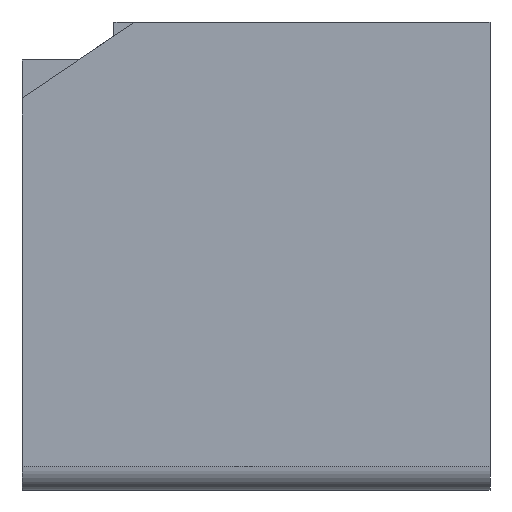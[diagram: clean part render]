
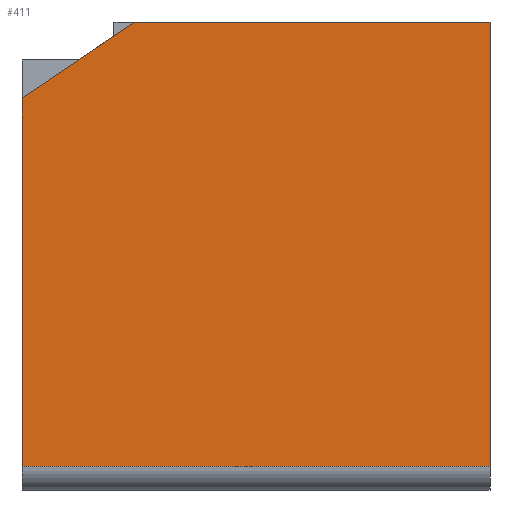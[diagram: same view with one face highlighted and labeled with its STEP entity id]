
A CAD part, front view. The second image highlights one B-rep face of the part: STEP entity #411.
In plain terms, the highlighted planar face has unit normal (0, -1, 0).
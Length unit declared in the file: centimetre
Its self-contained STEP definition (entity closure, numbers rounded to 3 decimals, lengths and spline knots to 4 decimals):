
#36 = LINE ( 'NONE', #930, #144 ) ;
#66 = VERTEX_POINT ( 'NONE', #776 ) ;
#69 = VECTOR ( 'NONE', #676, 100. ) ;
#98 = EDGE_CURVE ( 'NONE', #172, #741, #368, .T. ) ;
#129 = DIRECTION ( 'NONE',  ( 0., 0., 1. ) ) ;
#140 = CARTESIAN_POINT ( 'NONE',  ( 1000., 0., 50.4014 ) ) ;
#144 = VECTOR ( 'NONE', #203, 100. ) ;
#147 = CARTESIAN_POINT ( 'NONE',  ( 0., 0., 1000. ) ) ;
#164 = EDGE_CURVE ( 'NONE', #66, #741, #36, .T. ) ;
#172 = VERTEX_POINT ( 'NONE', #769 ) ;
#203 = DIRECTION ( 'NONE',  ( 1., 0., 0. ) ) ;
#287 = CARTESIAN_POINT ( 'NONE',  ( 0., 0., 1000. ) ) ;
#336 = CARTESIAN_POINT ( 'NONE',  ( 0., 0., 837.6477 ) ) ;
#368 = LINE ( 'NONE', #687, #929 ) ;
#374 = AXIS2_PLACEMENT_3D ( 'NONE', #287, #529, #129 ) ;
#375 = PLANE ( 'NONE',  #374 ) ;
#408 = ORIENTED_EDGE ( 'NONE', *, *, #98, .F. ) ;
#409 = CARTESIAN_POINT ( 'NONE',  ( 0., 0., 837.6477 ) ) ;
#411 = ADVANCED_FACE ( 'NONE', ( #866 ), #375, .F. ) ;
#420 = CARTESIAN_POINT ( 'NONE',  ( 240.8761, 0., 1000. ) ) ;
#424 = DIRECTION ( 'NONE',  ( 0., 0., -1. ) ) ;
#439 = ORIENTED_EDGE ( 'NONE', *, *, #164, .T. ) ;
#472 = DIRECTION ( 'NONE',  ( 1., 0., 0. ) ) ;
#516 = VERTEX_POINT ( 'NONE', #420 ) ;
#529 = DIRECTION ( 'NONE',  ( 0., 1., 0. ) ) ;
#562 = LINE ( 'NONE', #147, #908 ) ;
#609 = ORIENTED_EDGE ( 'NONE', *, *, #1013, .F. ) ;
#666 = ORIENTED_EDGE ( 'NONE', *, *, #967, .T. ) ;
#676 = DIRECTION ( 'NONE',  ( 0.829, 0., 0.559 ) ) ;
#687 = CARTESIAN_POINT ( 'NONE',  ( 1000., 0., 1000. ) ) ;
#729 = ORIENTED_EDGE ( 'NONE', *, *, #827, .F. ) ;
#741 = VERTEX_POINT ( 'NONE', #140 ) ;
#769 = CARTESIAN_POINT ( 'NONE',  ( 1000., 0., 1000. ) ) ;
#776 = CARTESIAN_POINT ( 'NONE',  ( 0., 0., 50.4014 ) ) ;
#827 = EDGE_CURVE ( 'NONE', #516, #172, #889, .T. ) ;
#830 = LINE ( 'NONE', #336, #69 ) ;
#866 = FACE_OUTER_BOUND ( 'NONE', #978, .T. ) ;
#889 = LINE ( 'NONE', #1044, #892 ) ;
#892 = VECTOR ( 'NONE', #472, 100. ) ;
#908 = VECTOR ( 'NONE', #424, 100. ) ;
#929 = VECTOR ( 'NONE', #1019, 100. ) ;
#930 = CARTESIAN_POINT ( 'NONE',  ( 0., 0., 50.4014 ) ) ;
#967 = EDGE_CURVE ( 'NONE', #1068, #66, #562, .T. ) ;
#978 = EDGE_LOOP ( 'NONE', ( #729, #609, #666, #439, #408 ) ) ;
#1013 = EDGE_CURVE ( 'NONE', #1068, #516, #830, .T. ) ;
#1019 = DIRECTION ( 'NONE',  ( 0., 0., -1. ) ) ;
#1044 = CARTESIAN_POINT ( 'NONE',  ( 0., 0., 1000. ) ) ;
#1068 = VERTEX_POINT ( 'NONE', #409 ) ;
